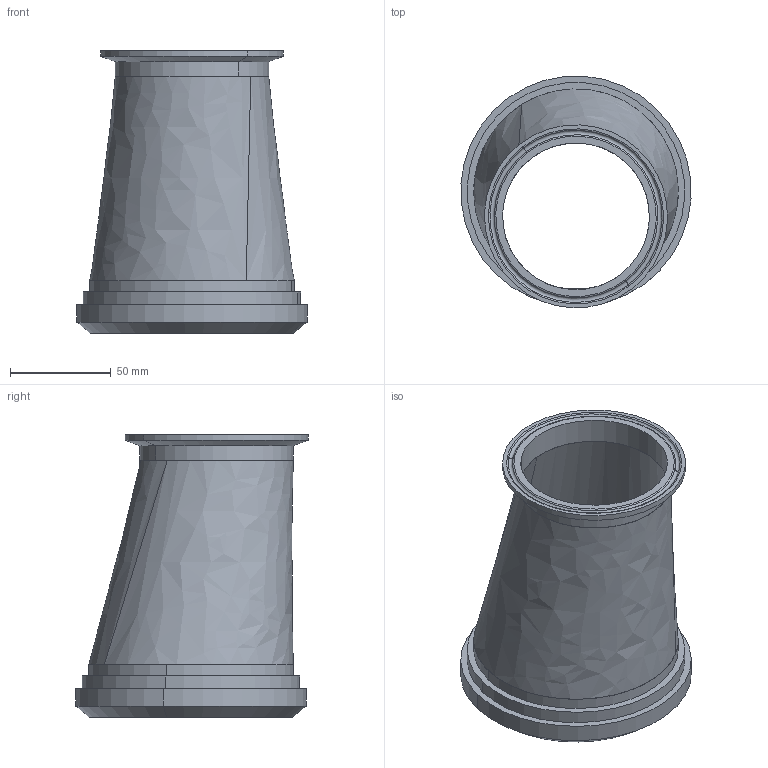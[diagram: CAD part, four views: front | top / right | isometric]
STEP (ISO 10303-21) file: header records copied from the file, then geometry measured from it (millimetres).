
FILE_DESCRIPTION (( 'STEP AP203' ), '1' );
FILE_NAME ('EG32PC 4.0X3.0.STEP', '2021-10-28T13:08:19', ( '' ), ( '' ), 'SwSTEP 2.0', 'SolidWorks 2021', '' );
FILE_SCHEMA (( 'CONFIG_CONTROL_DESIGN' ));
Length unit declared in the file: inch
Products named in the file (4): E32WW4.0X3.0; 14PR4.0; EG32PC 4.0X3.0; EG2CS3.0
Assembly tree (3 placements, depth 2):
  EG32PC 4.0X3.0
    EG2CS3.0
    E32WW4.0X3.0
    14PR4.0
Bounding box: 114.25 x 115.23 x 140.49 mm (x, y, z)
Volume: 104181.7 mm3; surface area: 88890.8 mm2
Topology: 3 solids, 3 shells, 37 faces, 74 edges, 46 vertices
Faces by surface type: cylinder 14, plane 9, torus 6, cone 4, bspline 4
Entity records: 2114 total; most frequent: CARTESIAN_POINT 883, DIRECTION 200, ORIENTED_EDGE 148, AXIS2_PLACEMENT_3D 91, EDGE_CURVE 74, CIRCLE 52, EDGE_LOOP 46, VERTEX_POINT 46
